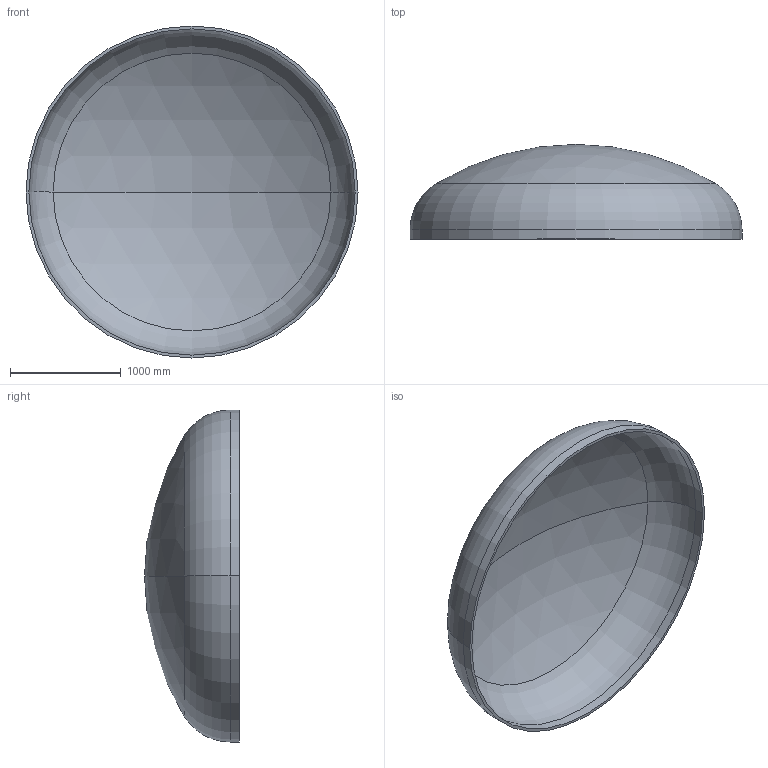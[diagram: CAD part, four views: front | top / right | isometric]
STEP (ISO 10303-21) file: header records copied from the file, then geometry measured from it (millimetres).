
FILE_DESCRIPTION (( 'STEP AP203' ), '1' );
FILE_NAME ('DIN 28013 Korbbogenform_-_Boden DIN 28013 - 3000 x 85 - I - s=26.step', '2016-07-01T17:37:43', ( '' ), ( '' ), 'SwSTEP 2.0', 'SolidWorks 2013', '' );
FILE_SCHEMA (( 'CONFIG_CONTROL_DESIGN' ));
Length unit declared in the file: millimetre
Products named in the file (1): DIN 28013 Korbbogenform_-_Boden DIN 28013 - 3000 x 85 - I - s=26
Bounding box: 3000 x 857.09 x 3000 mm (x, y, z)
Volume: 272072267.1 mm3; surface area: 21172964.4 mm2
Topology: 1 solids, 1 shells, 13 faces, 24 edges, 14 vertices
Faces by surface type: torus 4, cylinder 4, sphere 4, plane 1
Entity records: 407 total; most frequent: DIRECTION 72, CARTESIAN_POINT 52, ORIENTED_EDGE 48, AXIS2_PLACEMENT_3D 34, EDGE_CURVE 24, CIRCLE 20, VERTEX_POINT 14, EDGE_LOOP 14
